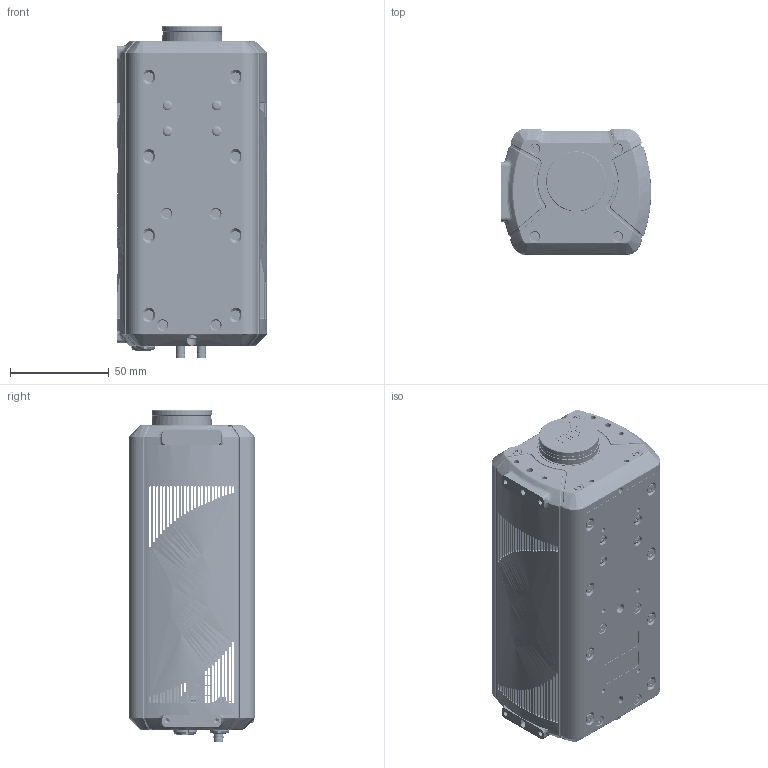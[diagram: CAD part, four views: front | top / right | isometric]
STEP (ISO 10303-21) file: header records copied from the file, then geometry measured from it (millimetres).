
FILE_DESCRIPTION (( 'STEP AP214' ), '1' );
FILE_NAME ('FLI011-310-PE004-A01 C-Blue One Mechanical interface.STEP', '2022-11-22T10:33:52', ( '' ), ( '' ), 'SwSTEP 2.0', 'SolidWorks 2021', '' );
FILE_SCHEMA (( 'AUTOMOTIVE_DESIGN' ));
Length unit declared in the file: millimetre
Products named in the file (1): FLI011-310-PE004-A01 C-Blue One Mechanical interface
Bounding box: 76.2 x 64.15 x 168.33 mm (x, y, z)
Volume: 111900.9 mm3; surface area: 131218.3 mm2
Topology: 80 solids, 80 shells, 6646 faces, 17934 edges, 11540 vertices
Faces by surface type: plane 3338, cylinder 2238, bspline 564, cone 335, torus 141, sphere 30
Entity records: 305404 total; most frequent: CARTESIAN_POINT 68851, ORIENTED_EDGE 35796, DIRECTION 31016, EDGE_CURVE 17898, VERTEX_POINT 11540, LINE 10976, VECTOR 10976, AXIS2_PLACEMENT_3D 10020
